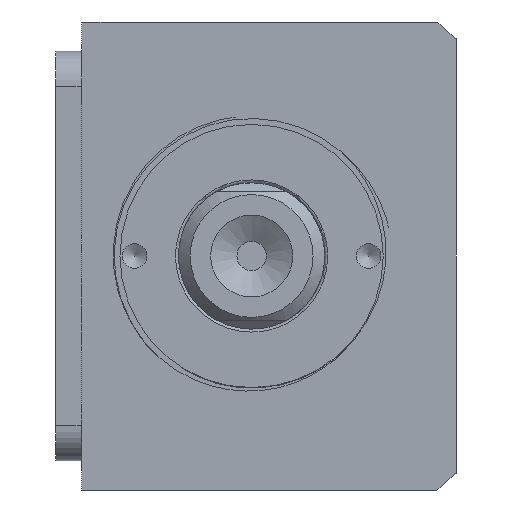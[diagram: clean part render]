
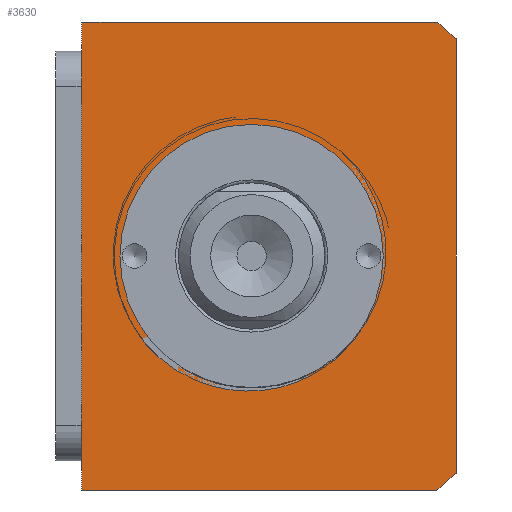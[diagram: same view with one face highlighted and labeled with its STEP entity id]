
A CAD part, front view. The second image highlights one B-rep face of the part: STEP entity #3630.
In plain terms, the highlighted planar face has unit normal (0, -1, 0).
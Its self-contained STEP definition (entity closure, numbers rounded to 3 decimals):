
#884=FACE_BOUND('',#4564,.T.);
#885=FACE_BOUND('',#4565,.T.);
#3303=PLANE('',#11739);
#3630=ADVANCED_FACE('',(#884,#885),#3303,.T.);
#4564=EDGE_LOOP('',(#7133));
#4565=EDGE_LOOP('',(#7134,#7135,#7136,#7137,#7138,#7139));
#5117=LINE('',#14128,#6030);
#5129=LINE('',#14312,#6042);
#5153=LINE('',#14365,#6066);
#5160=LINE('',#14385,#6073);
#6030=VECTOR('',#12192,1.);
#6042=VECTOR('',#12264,1.);
#6066=VECTOR('',#12294,1.);
#6073=VECTOR('',#12311,1.);
#7133=ORIENTED_EDGE('',*,*,#10415,.F.);
#7134=ORIENTED_EDGE('',*,*,#10418,.T.);
#7135=ORIENTED_EDGE('',*,*,#10453,.T.);
#7136=ORIENTED_EDGE('',*,*,#10444,.T.);
#7137=ORIENTED_EDGE('',*,*,#10454,.T.);
#7138=ORIENTED_EDGE('',*,*,#10385,.T.);
#7139=ORIENTED_EDGE('',*,*,#10455,.T.);
#9529=VERTEX_POINT('',#14127);
#9530=VERTEX_POINT('',#14129);
#9558=VERTEX_POINT('',#14305);
#9560=VERTEX_POINT('',#14310);
#9562=VERTEX_POINT('',#14313);
#9587=VERTEX_POINT('',#14364);
#9588=VERTEX_POINT('',#14366);
#10385=EDGE_CURVE('',#9530,#9529,#5117,.T.);
#10415=EDGE_CURVE('',#9558,#9558,#11624,.T.);
#10418=EDGE_CURVE('',#9562,#9560,#5129,.T.);
#10444=EDGE_CURVE('',#9588,#9587,#5153,.T.);
#10453=EDGE_CURVE('',#9560,#9588,#11630,.T.);
#10454=EDGE_CURVE('',#9587,#9530,#11631,.T.);
#10455=EDGE_CURVE('',#9529,#9562,#5160,.T.);
#11624=CIRCLE('',#11728,22.5);
#11630=CIRCLE('',#11737,51.);
#11631=CIRCLE('',#11738,51.);
#11728=AXIS2_PLACEMENT_3D('',#14304,#12257,#12258);
#11737=AXIS2_PLACEMENT_3D('',#14383,#12307,#12308);
#11738=AXIS2_PLACEMENT_3D('',#14384,#12309,#12310);
#11739=AXIS2_PLACEMENT_3D('',#14386,#12312,#12313);
#12192=DIRECTION('',(-1.,0.,0.));
#12257=DIRECTION('',(0.,-1.,0.));
#12258=DIRECTION('',(0.,0.,1.));
#12264=DIRECTION('',(1.,0.,0.));
#12294=DIRECTION('',(0.,0.,1.));
#12307=DIRECTION('',(0.,-1.,0.));
#12308=DIRECTION('',(0.,0.,1.));
#12309=DIRECTION('',(0.,-1.,0.));
#12310=DIRECTION('',(0.,0.,1.));
#12311=DIRECTION('',(0.,0.,-1.));
#12312=DIRECTION('',(0.,-1.,0.));
#12313=DIRECTION('',(0.,0.,-1.));
#14127=CARTESIAN_POINT('',(4.845,-53.655,44.267));
#14128=CARTESIAN_POINT('',(4.845,-53.655,44.267));
#14129=CARTESIAN_POINT('',(65.484,-53.655,44.267));
#14304=CARTESIAN_POINT('',(33.845,-53.655,4.267));
#14305=CARTESIAN_POINT('',(33.845,-53.655,26.767));
#14310=CARTESIAN_POINT('',(65.484,-53.655,-35.733));
#14312=CARTESIAN_POINT('',(4.845,-53.655,-35.733));
#14313=CARTESIAN_POINT('',(4.845,-53.655,-35.733));
#14364=CARTESIAN_POINT('',(68.845,-53.655,41.361));
#14365=CARTESIAN_POINT('',(68.845,-53.655,-35.733));
#14366=CARTESIAN_POINT('',(68.845,-53.655,-32.828));
#14383=CARTESIAN_POINT('',(33.845,-53.655,4.267));
#14384=CARTESIAN_POINT('',(33.845,-53.655,4.267));
#14385=CARTESIAN_POINT('',(4.845,-53.655,-35.733));
#14386=CARTESIAN_POINT('',(-6.661,-53.655,4.267));
